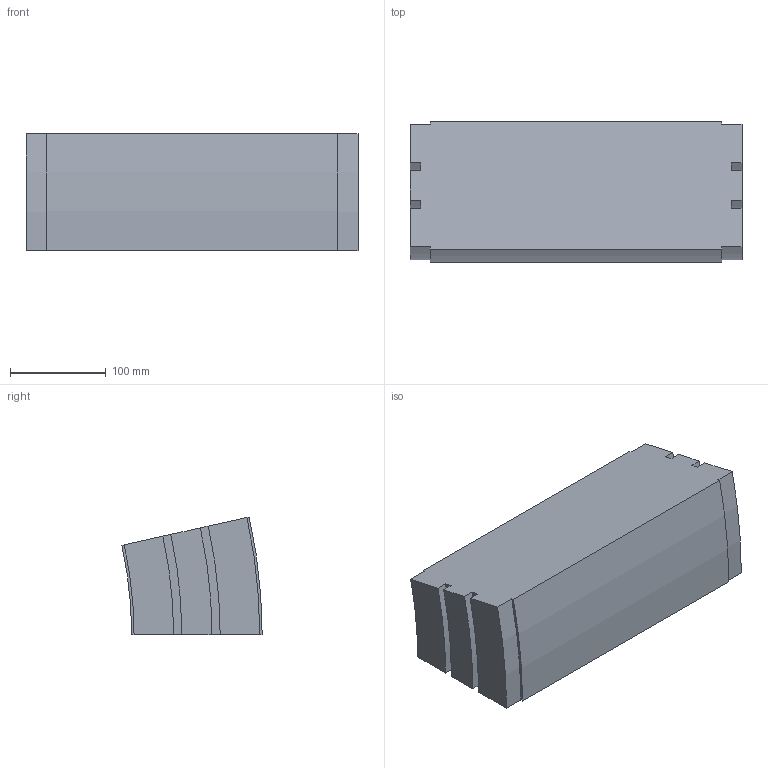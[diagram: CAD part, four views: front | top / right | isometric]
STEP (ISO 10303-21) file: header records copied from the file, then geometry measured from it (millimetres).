
FILE_DESCRIPTION (( 'STEP AP214' ), '1' );
FILE_NAME ('02.150V12.350.N FS-350-MTC-150 Bocht verticaal 12,5°.STEP', '2013-03-21T10:49:29', ( 'Gebruiker' ), ( '' ), 'SwSTEP 2.0', 'SolidWorks 2012', '' );
FILE_SCHEMA (( 'AUTOMOTIVE_DESIGN' ));
Length unit declared in the file: millimetre
Products named in the file (1): 02.150V12.350.N FS-350-MTC-150 Bocht verticaal 12,5°
Bounding box: 346 x 146.24 x 122.94 mm (x, y, z)
Volume: 5069308.8 mm3; surface area: 207699.4 mm2
Topology: 1 solids, 1 shells, 30 faces, 84 edges, 56 vertices
Faces by surface type: plane 16, cylinder 14
Entity records: 1010 total; most frequent: DIRECTION 174, CARTESIAN_POINT 171, ORIENTED_EDGE 168, EDGE_CURVE 84, AXIS2_PLACEMENT_3D 59, VECTOR 56, LINE 56, VERTEX_POINT 56
